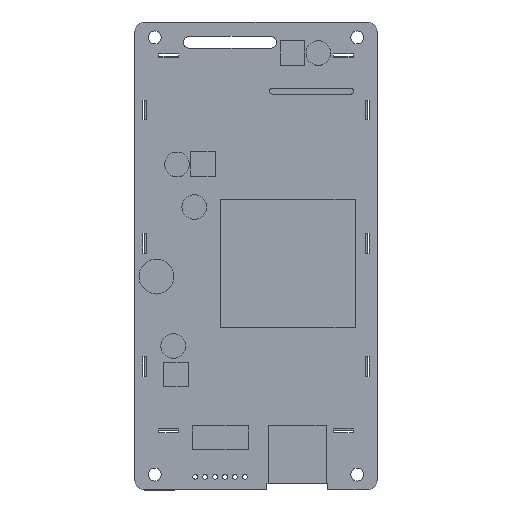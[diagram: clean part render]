
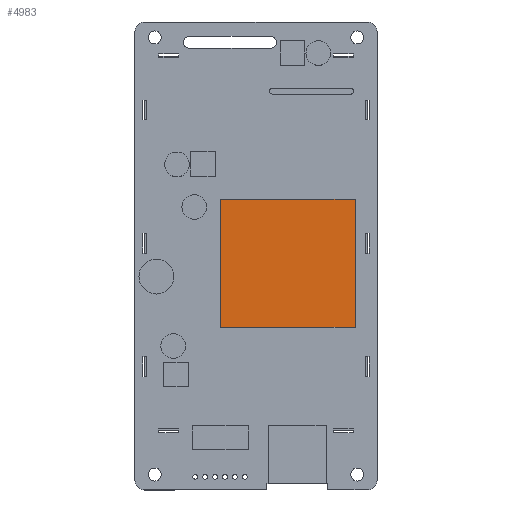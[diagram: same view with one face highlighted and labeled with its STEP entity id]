
A CAD part, top view. The second image highlights one B-rep face of the part: STEP entity #4983.
In plain terms, the highlighted planar face has unit normal (0, 0, 1).
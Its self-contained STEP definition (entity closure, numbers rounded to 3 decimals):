
#1772 = DIRECTION ( 'NONE',  ( 0., 0., 1. ) ) ;
#1842 = CARTESIAN_POINT ( 'NONE',  ( -9.106, -18.225, 5.3 ) ) ;
#2129 = ORIENTED_EDGE ( 'NONE', *, *, #11748, .F. ) ;
#2568 = VECTOR ( 'NONE', #9101, 1000. ) ;
#2805 = EDGE_CURVE ( 'NONE', #5185, #7786, #7503, .T. ) ;
#3085 = CARTESIAN_POINT ( 'NONE',  ( 25.311, 14.541, 5.3 ) ) ;
#3557 = PLANE ( 'NONE',  #11283 ) ;
#3727 = LINE ( 'NONE', #3085, #10914 ) ;
#4009 = DIRECTION ( 'NONE',  ( 1., 0., 0. ) ) ;
#4909 = VECTOR ( 'NONE', #7985, 1000. ) ;
#4983 = ADVANCED_FACE ( 'NONE', ( #10716 ), #3557, .T. ) ;
#5088 = CARTESIAN_POINT ( 'NONE',  ( -9.106, 14.541, 5.3 ) ) ;
#5185 = VERTEX_POINT ( 'NONE', #8532 ) ;
#6073 = EDGE_LOOP ( 'NONE', ( #9503, #2129, #8239, #9116 ) ) ;
#6679 = VERTEX_POINT ( 'NONE', #11968 ) ;
#6997 = VECTOR ( 'NONE', #7628, 1000. ) ;
#7040 = CARTESIAN_POINT ( 'NONE',  ( -9.106, 14.541, 5.3 ) ) ;
#7288 = LINE ( 'NONE', #11397, #6997 ) ;
#7291 = CARTESIAN_POINT ( 'NONE',  ( -30.925, 57.214, 5.3 ) ) ;
#7503 = LINE ( 'NONE', #1842, #2568 ) ;
#7628 = DIRECTION ( 'NONE',  ( 0., -1., 0. ) ) ;
#7786 = VERTEX_POINT ( 'NONE', #8439 ) ;
#7985 = DIRECTION ( 'NONE',  ( 0., 1., 0. ) ) ;
#8239 = ORIENTED_EDGE ( 'NONE', *, *, #8585, .F. ) ;
#8241 = DIRECTION ( 'NONE',  ( 1., 0., 0. ) ) ;
#8439 = CARTESIAN_POINT ( 'NONE',  ( -9.106, -18.225, 5.3 ) ) ;
#8532 = CARTESIAN_POINT ( 'NONE',  ( 25.311, -18.225, 5.3 ) ) ;
#8555 = VERTEX_POINT ( 'NONE', #5088 ) ;
#8585 = EDGE_CURVE ( 'NONE', #7786, #8555, #9901, .T. ) ;
#9101 = DIRECTION ( 'NONE',  ( -1., 0., 0. ) ) ;
#9116 = ORIENTED_EDGE ( 'NONE', *, *, #2805, .F. ) ;
#9503 = ORIENTED_EDGE ( 'NONE', *, *, #10618, .F. ) ;
#9901 = LINE ( 'NONE', #7040, #4909 ) ;
#10618 = EDGE_CURVE ( 'NONE', #6679, #5185, #7288, .T. ) ;
#10716 = FACE_OUTER_BOUND ( 'NONE', #6073, .T. ) ;
#10914 = VECTOR ( 'NONE', #4009, 1000. ) ;
#11283 = AXIS2_PLACEMENT_3D ( 'NONE', #7291, #1772, #8241 ) ;
#11397 = CARTESIAN_POINT ( 'NONE',  ( 25.311, -18.225, 5.3 ) ) ;
#11748 = EDGE_CURVE ( 'NONE', #8555, #6679, #3727, .T. ) ;
#11968 = CARTESIAN_POINT ( 'NONE',  ( 25.311, 14.541, 5.3 ) ) ;
